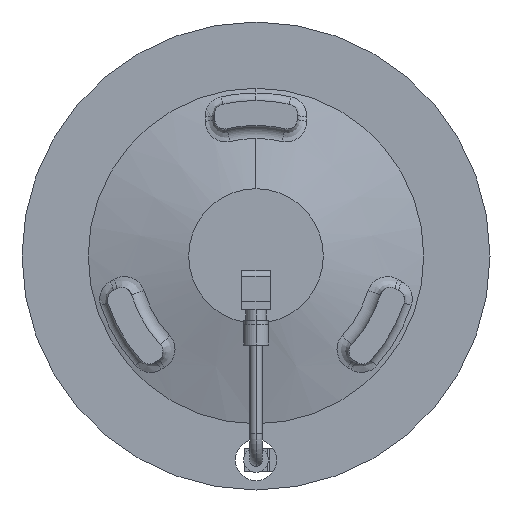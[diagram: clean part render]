
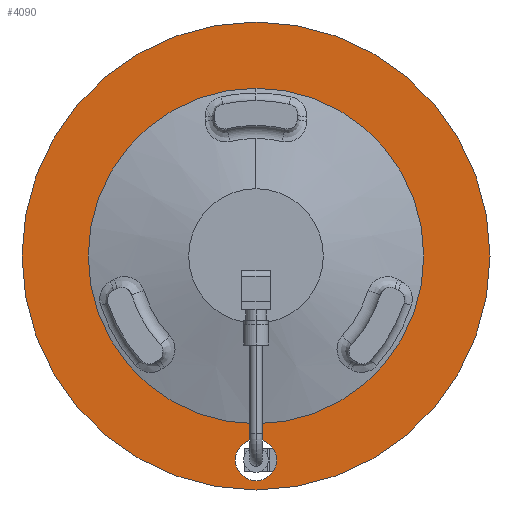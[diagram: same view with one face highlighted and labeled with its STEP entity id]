
A CAD part, front view. The second image highlights one B-rep face of the part: STEP entity #4090.
In plain terms, the highlighted planar face has unit normal (0, -1, 0).
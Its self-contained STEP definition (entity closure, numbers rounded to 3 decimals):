
#712 = AXIS2_PLACEMENT_3D ( 'NONE', #10994, #8410, #9489 ) ;
#814 = EDGE_CURVE ( 'NONE', #9965, #12397, #12715, .T. ) ;
#835 = CIRCLE ( 'NONE', #14425, 113. ) ;
#965 = FACE_OUTER_BOUND ( 'NONE', #9419, .T. ) ;
#1006 = EDGE_CURVE ( 'NONE', #2139, #6214, #13990, .T. ) ;
#2139 = VERTEX_POINT ( 'NONE', #8540 ) ;
#2546 = FACE_BOUND ( 'NONE', #10578, .T. ) ;
#2589 = DIRECTION ( 'NONE',  ( 0., 0., -1. ) ) ;
#2995 = DIRECTION ( 'NONE',  ( 0., 1., 0. ) ) ;
#3586 = CARTESIAN_POINT ( 'NONE',  ( 0., -151.8, 113. ) ) ;
#3684 = AXIS2_PLACEMENT_3D ( 'NONE', #7655, #12501, #4896 ) ;
#3891 = ORIENTED_EDGE ( 'NONE', *, *, #10027, .F. ) ;
#3914 = AXIS2_PLACEMENT_3D ( 'NONE', #8862, #11622, #2589 ) ;
#4090 = ADVANCED_FACE ( 'NONE', ( #2546, #7318, #965 ), #15079, .T. ) ;
#4454 = ORIENTED_EDGE ( 'NONE', *, *, #7471, .F. ) ;
#4708 = ORIENTED_EDGE ( 'NONE', *, *, #814, .F. ) ;
#4862 = CARTESIAN_POINT ( 'NONE',  ( 0., -151.8, 81.017 ) ) ;
#4896 = DIRECTION ( 'NONE',  ( 0., 0., -1. ) ) ;
#4936 = CARTESIAN_POINT ( 'NONE',  ( 0., -151.8, -88.5 ) ) ;
#6015 = CARTESIAN_POINT ( 'NONE',  ( 0., -151.8, 0. ) ) ;
#6214 = VERTEX_POINT ( 'NONE', #4862 ) ;
#6310 = AXIS2_PLACEMENT_3D ( 'NONE', #14673, #13665, #14917 ) ;
#6334 = CIRCLE ( 'NONE', #712, 113. ) ;
#6382 = CARTESIAN_POINT ( 'NONE',  ( 0., -151.8, -108.5 ) ) ;
#6443 = VERTEX_POINT ( 'NONE', #3586 ) ;
#6939 = CARTESIAN_POINT ( 'NONE',  ( 0., -151.8, 0. ) ) ;
#7012 = CIRCLE ( 'NONE', #9145, 81.017 ) ;
#7314 = EDGE_LOOP ( 'NONE', ( #11017, #14773 ) ) ;
#7318 = FACE_BOUND ( 'NONE', #7314, .T. ) ;
#7354 = DIRECTION ( 'NONE',  ( 0., 0., 1. ) ) ;
#7471 = EDGE_CURVE ( 'NONE', #12397, #9965, #8712, .T. ) ;
#7655 = CARTESIAN_POINT ( 'NONE',  ( -113., -151.8, 0. ) ) ;
#8116 = AXIS2_PLACEMENT_3D ( 'NONE', #6939, #2995, #10777 ) ;
#8410 = DIRECTION ( 'NONE',  ( 0., 1., 0. ) ) ;
#8540 = CARTESIAN_POINT ( 'NONE',  ( 0., -151.8, -81.017 ) ) ;
#8712 = CIRCLE ( 'NONE', #6310, 10. ) ;
#8862 = CARTESIAN_POINT ( 'NONE',  ( 0., -151.8, -98.5 ) ) ;
#8899 = EDGE_CURVE ( 'NONE', #6443, #16327, #6334, .T. ) ;
#9145 = AXIS2_PLACEMENT_3D ( 'NONE', #11830, #11916, #11747 ) ;
#9419 = EDGE_LOOP ( 'NONE', ( #9624, #3891 ) ) ;
#9489 = DIRECTION ( 'NONE',  ( 0., 0., 1. ) ) ;
#9624 = ORIENTED_EDGE ( 'NONE', *, *, #8899, .F. ) ;
#9965 = VERTEX_POINT ( 'NONE', #4936 ) ;
#10027 = EDGE_CURVE ( 'NONE', #16327, #6443, #835, .T. ) ;
#10578 = EDGE_LOOP ( 'NONE', ( #4708, #4454 ) ) ;
#10777 = DIRECTION ( 'NONE',  ( 0., 0., 1. ) ) ;
#10994 = CARTESIAN_POINT ( 'NONE',  ( 0., -151.8, 0. ) ) ;
#11017 = ORIENTED_EDGE ( 'NONE', *, *, #15550, .T. ) ;
#11622 = DIRECTION ( 'NONE',  ( 0., -1., 0. ) ) ;
#11747 = DIRECTION ( 'NONE',  ( 0., 0., 1. ) ) ;
#11830 = CARTESIAN_POINT ( 'NONE',  ( 0., -151.8, 0. ) ) ;
#11916 = DIRECTION ( 'NONE',  ( 0., 1., 0. ) ) ;
#12397 = VERTEX_POINT ( 'NONE', #6382 ) ;
#12501 = DIRECTION ( 'NONE',  ( 0., -1., 0. ) ) ;
#12715 = CIRCLE ( 'NONE', #3914, 10. ) ;
#13665 = DIRECTION ( 'NONE',  ( 0., -1., 0. ) ) ;
#13990 = CIRCLE ( 'NONE', #8116, 81.017 ) ;
#14200 = CARTESIAN_POINT ( 'NONE',  ( 0., -151.8, -113. ) ) ;
#14425 = AXIS2_PLACEMENT_3D ( 'NONE', #6015, #16115, #7354 ) ;
#14673 = CARTESIAN_POINT ( 'NONE',  ( 0., -151.8, -98.5 ) ) ;
#14773 = ORIENTED_EDGE ( 'NONE', *, *, #1006, .T. ) ;
#14917 = DIRECTION ( 'NONE',  ( 0., 0., -1. ) ) ;
#15079 = PLANE ( 'NONE',  #3684 ) ;
#15550 = EDGE_CURVE ( 'NONE', #6214, #2139, #7012, .T. ) ;
#16115 = DIRECTION ( 'NONE',  ( 0., 1., 0. ) ) ;
#16327 = VERTEX_POINT ( 'NONE', #14200 ) ;
